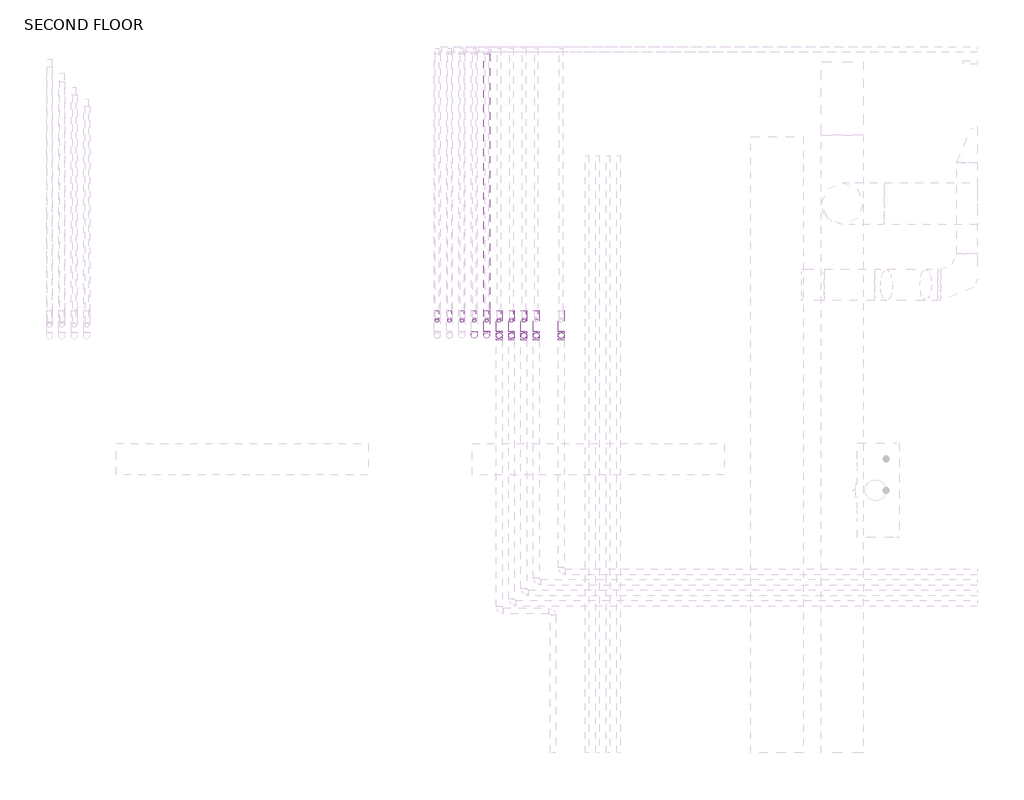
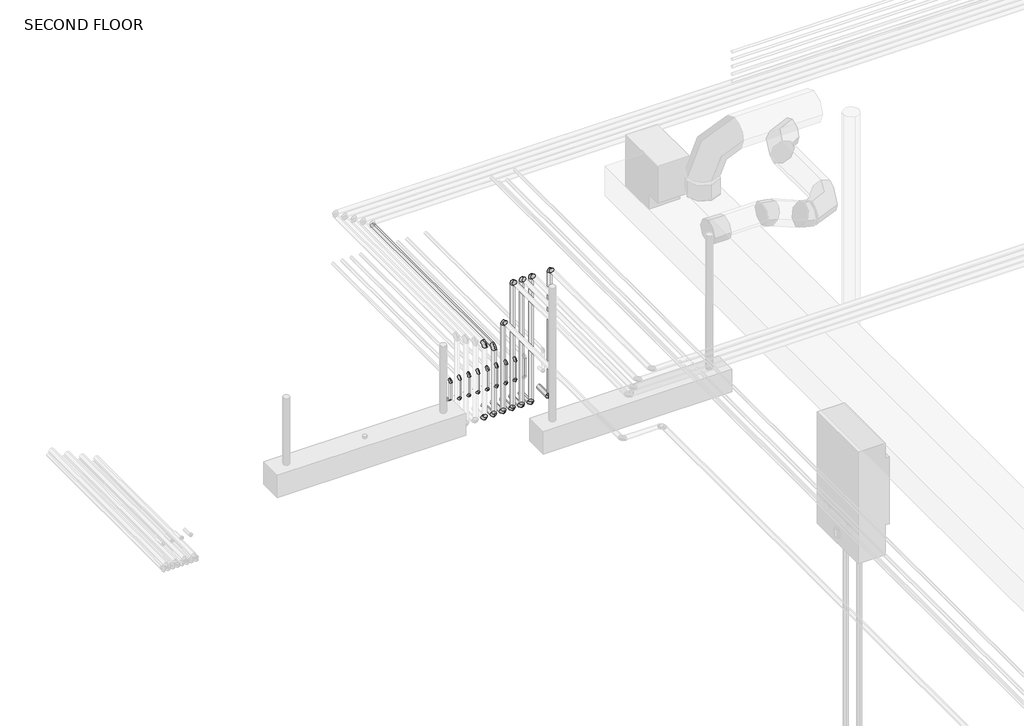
# One storey, part 8 of 12: 31 pipe segments, 30 pipe fittings.
"""IFC4 building model written with IfcOpenShell, lengths in millimetres."""

from ifc_helpers import new_model, si_unit, point, frame, frame_2d, origin, place, context, project, spatial, circle_curve, trimmed, segment, composite_curve, outline, extrude, transform, mapped, element, save
from components import elbow_generic_standard_c06ac706, elbow_generic_standard_a088f956

model = new_model("IFC4")

# Units and contexts
model_context = context("Model", 3, world=origin())
ifc_project = project(units=[si_unit("LENGTHUNIT", "METRE", prefix="MILLI")], contexts=[model_context])

# Site, building, storey
site = spatial("IfcSite", under=ifc_project)
building = spatial("IfcBuilding", under=site)
storey = spatial("IfcBuildingStorey", under=building, Name="SECOND FLOOR", Elevation=34544.0)

# Pipe fittings
placement = place(None, origin())
elbow_generic_standard_shape = elbow_generic_standard_c06ac706(model_context)
element("IfcPipeFitting", 1, ObjectType="Elbow - Generic : Standard", at=placement, inside=storey, context=model_context, shape_type="MappedRepresentation", body=[
    mapped(elbow_generic_standard_shape, transform((-7811.0790543, 6278.6701311, 37115.9125), x_axis=(0.0, -1.0, 0.0), y_axis=(0.0, 0.0, 1.0), z_axis=(-1.0, 0.0, 0.0))),
])
element("IfcPipeFitting", 2, ObjectType="Elbow - Generic : Standard", at=placement, inside=storey, context=model_context, shape_type="MappedRepresentation", body=[
    mapped(elbow_generic_standard_shape, transform((-7811.0790543, 6278.6701311, 37630.1), x_axis=(0.0, 0.0, 1.0), y_axis=(0.0, 1.0, 0.0), z_axis=(-1.0, 0.0, 0.0))),
])
element("IfcPipeFitting", 3, ObjectType="Elbow - Generic : Standard", at=placement, inside=storey, context=model_context, shape_type="MappedRepresentation", body=[
    mapped(elbow_generic_standard_shape, transform((-7751.0790543, 6278.6701311, 37115.9125), x_axis=(0.0, -1.0, 0.0), y_axis=(0.0, 0.0, 1.0), z_axis=(-1.0, 0.0, 0.0))),
])
element("IfcPipeFitting", 4, ObjectType="Elbow - Generic : Standard", at=placement, inside=storey, context=model_context, shape_type="MappedRepresentation", body=[
    mapped(elbow_generic_standard_shape, transform((-7751.0790543, 6278.6701311, 37592.0), x_axis=(0.0, 0.0, 1.0), y_axis=(0.0, 1.0, 0.0), z_axis=(-1.0, 0.0, 0.0))),
])
element("IfcPipeFitting", 5, ObjectType="Elbow - Generic : Standard", at=placement, inside=storey, context=model_context, shape_type="MappedRepresentation", body=[
    mapped(elbow_generic_standard_shape, transform((-7691.0790543, 6278.6701311, 37115.9125), x_axis=(0.0, -1.0, 0.0), y_axis=(0.0, 0.0, 1.0), z_axis=(-1.0, 0.0, 0.0))),
])
element("IfcPipeFitting", 6, ObjectType="Elbow - Generic : Standard", at=placement, inside=storey, context=model_context, shape_type="MappedRepresentation", body=[
    mapped(elbow_generic_standard_shape, transform((-7691.0790543, 6278.6701311, 37744.4), x_axis=(0.0, 0.0, 1.0), y_axis=(0.0, -1.0, 0.0), z_axis=(1.0, 0.0, 0.0))),
])
element("IfcPipeFitting", 7, ObjectType="Elbow - Generic : Standard", at=placement, inside=storey, context=model_context, shape_type="MappedRepresentation", body=[
    mapped(elbow_generic_standard_shape, transform((-7631.0790543, 6278.6701311, 37115.9125), x_axis=(0.0, -1.0, 0.0), y_axis=(0.0, 0.0, 1.0), z_axis=(-1.0, 0.0, 0.0))),
])
element("IfcPipeFitting", 8, ObjectType="Elbow - Generic : Standard", at=placement, inside=storey, context=model_context, shape_type="MappedRepresentation", body=[
    mapped(elbow_generic_standard_shape, transform((-7631.0790543, 6278.6701311, 37998.4), x_axis=(0.0, 0.0, 1.0), y_axis=(0.0, -1.0, 0.0), z_axis=(1.0, 0.0, 0.0))),
])
element("IfcPipeFitting", 9, ObjectType="Elbow - Generic : Standard", at=placement, inside=storey, context=model_context, shape_type="MappedRepresentation", body=[
    mapped(elbow_generic_standard_shape, transform((-7571.0790543, 6278.6701311, 37115.9125), x_axis=(0.0, -1.0, 0.0), y_axis=(0.0, 0.0, 1.0), z_axis=(-1.0, 0.0, 0.0))),
])
element("IfcPipeFitting", 10, ObjectType="Elbow - Generic : Standard", at=placement, inside=storey, context=model_context, shape_type="MappedRepresentation", body=[
    mapped(elbow_generic_standard_shape, transform((-7571.0790543, 6278.6701311, 37998.4), x_axis=(0.0, 0.0, 1.0), y_axis=(0.0, -1.0, 0.0), z_axis=(1.0, 0.0, 0.0))),
])
element("IfcPipeFitting", 11, ObjectType="Elbow - Generic : Standard", at=placement, inside=storey, context=model_context, shape_type="MappedRepresentation", body=[
    mapped(elbow_generic_standard_shape, transform((-7511.0790543, 6278.6701311, 37115.9125), x_axis=(0.0, -1.0, 0.0), y_axis=(0.0, 0.0, 1.0), z_axis=(-1.0, 0.0, 0.0))),
])
element("IfcPipeFitting", 12, ObjectType="Elbow - Generic : Standard", at=placement, inside=storey, context=model_context, shape_type="MappedRepresentation", body=[
    mapped(elbow_generic_standard_shape, transform((-7511.0790543, 6278.6701311, 37998.4), x_axis=(0.0, 0.0, 1.0), y_axis=(0.0, -1.0, 0.0), z_axis=(1.0, 0.0, 0.0))),
])
element("IfcPipeFitting", 13, ObjectType="Elbow - Generic : Standard", at=placement, inside=storey, context=model_context, shape_type="MappedRepresentation", body=[
    mapped(elbow_generic_standard_shape, transform((-7391.0790543, 6278.6701311, 37115.9125), x_axis=(0.0, -1.0, 0.0), y_axis=(0.0, 0.0, 1.0), z_axis=(-1.0, 0.0, 0.0))),
])
element("IfcPipeFitting", 14, ObjectType="Elbow - Generic : Standard", at=placement, inside=storey, context=model_context, shape_type="MappedRepresentation", body=[
    mapped(elbow_generic_standard_shape, transform((-7391.0790543, 6278.6701311, 37998.4), x_axis=(0.0, 0.0, 1.0), y_axis=(0.0, -1.0, 0.0), z_axis=(1.0, 0.0, 0.0))),
])
elbow_generic_standard_2_shape = elbow_generic_standard_a088f956(model_context)
element("IfcPipeFitting", 15, ObjectType="Elbow - Generic : Standard", at=placement, inside=storey, context=model_context, shape_type="MappedRepresentation", body=[
    mapped(elbow_generic_standard_2_shape, transform((-7991.0790543, 6350.1076209, 37245.9125), x_axis=(0.0, -1.0, 0.0), y_axis=(0.0, 0.0, 1.0), z_axis=(-1.0, 0.0, 0.0))),
])
element("IfcPipeFitting", 16, ObjectType="Elbow - Generic : Standard", at=placement, inside=storey, context=model_context, shape_type="MappedRepresentation", body=[
    mapped(elbow_generic_standard_2_shape, transform((-7991.0790543, 6350.1076209, 37398.3125), x_axis=(0.0, 0.0, 1.0), y_axis=(0.0, 1.0, 0.0), z_axis=(-1.0, 0.0, 0.0))),
])
element("IfcPipeFitting", 17, ObjectType="Elbow - Generic : Standard", at=placement, inside=storey, context=model_context, shape_type="MappedRepresentation", body=[
    mapped(elbow_generic_standard_2_shape, transform((-7931.0790543, 6350.1076209, 37245.9125), x_axis=(0.0, -1.0, 0.0), y_axis=(0.0, 0.0, 1.0), z_axis=(-1.0, 0.0, 0.0))),
])
element("IfcPipeFitting", 18, ObjectType="Elbow - Generic : Standard", at=placement, inside=storey, context=model_context, shape_type="MappedRepresentation", body=[
    mapped(elbow_generic_standard_2_shape, transform((-7931.0790543, 6350.1076209, 37398.3125), x_axis=(0.0, 0.0, 1.0), y_axis=(0.0, 1.0, 0.0), z_axis=(-1.0, 0.0, 0.0))),
])
element("IfcPipeFitting", 19, ObjectType="Elbow - Generic : Standard", at=placement, inside=storey, context=model_context, shape_type="MappedRepresentation", body=[
    mapped(elbow_generic_standard_2_shape, transform((-7871.0790543, 6350.1076209, 37245.9125), x_axis=(0.0, -1.0, 0.0), y_axis=(0.0, 0.0, 1.0), z_axis=(-1.0, 0.0, 0.0))),
])
element("IfcPipeFitting", 20, ObjectType="Elbow - Generic : Standard", at=placement, inside=storey, context=model_context, shape_type="MappedRepresentation", body=[
    mapped(elbow_generic_standard_2_shape, transform((-7871.0790543, 6350.1076209, 37398.3125), x_axis=(0.0, 0.0, 1.0), y_axis=(0.0, 1.0, 0.0), z_axis=(-1.0, 0.0, 0.0))),
])
element("IfcPipeFitting", 21, ObjectType="Elbow - Generic : Standard", at=placement, inside=storey, context=model_context, shape_type="MappedRepresentation", body=[
    mapped(elbow_generic_standard_2_shape, transform((-7811.0790543, 6350.1076209, 37245.9125), x_axis=(0.0, -1.0, 0.0), y_axis=(0.0, 0.0, 1.0), z_axis=(-1.0, 0.0, 0.0))),
])
element("IfcPipeFitting", 22, ObjectType="Elbow - Generic : Standard", at=placement, inside=storey, context=model_context, shape_type="MappedRepresentation", body=[
    mapped(elbow_generic_standard_2_shape, transform((-7811.0790543, 6350.1076209, 37398.3125), x_axis=(0.0, 0.0, 1.0), y_axis=(0.0, 1.0, 0.0), z_axis=(-1.0, 0.0, 0.0))),
])
element("IfcPipeFitting", 23, ObjectType="Elbow - Generic : Standard", at=placement, inside=storey, context=model_context, shape_type="MappedRepresentation", body=[
    mapped(elbow_generic_standard_2_shape, transform((-7751.0790543, 6350.1076209, 37245.9125), x_axis=(0.0, -1.0, 0.0), y_axis=(0.0, 0.0, 1.0), z_axis=(-1.0, 0.0, 0.0))),
])
element("IfcPipeFitting", 24, ObjectType="Elbow - Generic : Standard", at=placement, inside=storey, context=model_context, shape_type="MappedRepresentation", body=[
    mapped(elbow_generic_standard_2_shape, transform((-7751.0790543, 6350.1076209, 37398.3125), x_axis=(0.0, 0.0, 1.0), y_axis=(0.0, 1.0, 0.0), z_axis=(-1.0, 0.0, 0.0))),
])
element("IfcPipeFitting", 25, ObjectType="Elbow - Generic : Standard", at=placement, inside=storey, context=model_context, shape_type="MappedRepresentation", body=[
    mapped(elbow_generic_standard_2_shape, transform((-7691.0790543, 6350.1076209, 37245.9125), x_axis=(0.0, -1.0, 0.0), y_axis=(0.0, 0.0, 1.0), z_axis=(-1.0, 0.0, 0.0))),
])
element("IfcPipeFitting", 26, ObjectType="Elbow - Generic : Standard", at=placement, inside=storey, context=model_context, shape_type="MappedRepresentation", body=[
    mapped(elbow_generic_standard_2_shape, transform((-7691.0790543, 6350.1076209, 37398.3125), x_axis=(0.0, 0.0, 1.0), y_axis=(0.0, 1.0, 0.0), z_axis=(-1.0, 0.0, 0.0))),
])
element("IfcPipeFitting", 27, ObjectType="Elbow - Generic : Standard", at=placement, inside=storey, context=model_context, shape_type="MappedRepresentation", body=[
    mapped(elbow_generic_standard_2_shape, transform((-7631.0790543, 6350.1076209, 37245.9125), x_axis=(0.0, -1.0, 0.0), y_axis=(0.0, 0.0, 1.0), z_axis=(-1.0, 0.0, 0.0))),
])
element("IfcPipeFitting", 28, ObjectType="Elbow - Generic : Standard", at=placement, inside=storey, context=model_context, shape_type="MappedRepresentation", body=[
    mapped(elbow_generic_standard_2_shape, transform((-7631.0790543, 6350.1076209, 37398.3125), x_axis=(0.0, 0.0, 1.0), y_axis=(0.0, 1.0, 0.0), z_axis=(-1.0, 0.0, 0.0))),
])
element("IfcPipeFitting", 29, ObjectType="Elbow - Generic : Standard", at=placement, inside=storey, context=model_context, shape_type="MappedRepresentation", body=[
    mapped(elbow_generic_standard_2_shape, transform((-7571.0790543, 6350.1076209, 37245.9125), x_axis=(0.0, -1.0, 0.0), y_axis=(0.0, 0.0, 1.0), z_axis=(-1.0, 0.0, 0.0))),
])
element("IfcPipeFitting", 30, ObjectType="Elbow - Generic : Standard", at=placement, inside=storey, context=model_context, shape_type="MappedRepresentation", body=[
    mapped(elbow_generic_standard_2_shape, transform((-7571.0790543, 6350.1076209, 37398.3125), x_axis=(0.0, 0.0, 1.0), y_axis=(0.0, 1.0, 0.0), z_axis=(-1.0, 0.0, 0.0))),
])

# Pipe segments
element("IfcPipeSegment", 31, ObjectType="Copper Tubing", at=placement, inside=storey, context=model_context, shape_type="SweptSolid", body=[
    extrude(outline(composite_curve([segment(trimmed(circle_curve(frame_2d((37115.9125, -7751.0790543)), 14.2875), [point((37115.9125, -7765.3665543))], [point((37101.625, -7751.0790543))], False, "CARTESIAN"), True, "CONTINUOUS"), segment(trimmed(circle_curve(frame_2d((37115.9125, -7751.0790543)), 14.2875), [point((37101.625, -7751.0790543))], [point((37115.9125, -7736.7915543))], False, "CARTESIAN"), True, "CONTINUOUS"), segment(trimmed(circle_curve(frame_2d((37115.9125, -7751.0790543)), 14.2875), [point((37115.9125, -7736.7915543))], [point((37130.2, -7751.0790543))], False, "CARTESIAN"), True, "CONTINUOUS"), segment(trimmed(circle_curve(frame_2d((37115.9125, -7751.0790543)), 14.2875), [point((37130.2, -7751.0790543))], [point((37115.9125, -7765.3665543))], False, "CARTESIAN"), True, "CONTINUOUS")], self_intersect=False)), frame((0.0, 6299.3076311, 0.0), z_axis=(0.0, 1.0, 0.0), x_axis=(0.0, 0.0, 1.0)), (0.0, 0.0, 1.0), 101.5999898),
])
element("IfcPipeSegment", 32, ObjectType="Copper Tubing", at=placement, inside=storey, context=model_context, shape_type="SweptSolid", body=[
    extrude(outline(composite_curve([segment(trimmed(circle_curve(frame_2d((-7751.0790543, 6278.6701311)), 14.2875), [point((-7765.3665543, 6278.6701311))], [point((-7751.0790543, 6292.9576311))], False, "CARTESIAN"), True, "CONTINUOUS"), segment(trimmed(circle_curve(frame_2d((-7751.0790543, 6278.6701311)), 14.2875), [point((-7751.0790543, 6292.9576311))], [point((-7736.7915543, 6278.6701311))], False, "CARTESIAN"), True, "CONTINUOUS"), segment(trimmed(circle_curve(frame_2d((-7751.0790543, 6278.6701311)), 14.2875), [point((-7736.7915543, 6278.6701311))], [point((-7751.0790543, 6264.3826311))], False, "CARTESIAN"), True, "CONTINUOUS"), segment(trimmed(circle_curve(frame_2d((-7751.0790543, 6278.6701311)), 14.2875), [point((-7751.0790543, 6264.3826311))], [point((-7765.3665543, 6278.6701311))], False, "CARTESIAN"), True, "CONTINUOUS")], self_intersect=False)), frame((0.0, 0.0, 37136.55), z_axis=(0.0, 0.0, 1.0), x_axis=(1.0, 0.0, 0.0)), (0.0, 0.0, 1.0), 434.8125),
])
element("IfcPipeSegment", 33, ObjectType="Copper Tubing", at=placement, inside=storey, context=model_context, shape_type="SweptSolid", body=[
    extrude(outline(composite_curve([segment(trimmed(circle_curve(frame_2d((37592.0, -7751.0790543)), 14.2875), [point((37592.0, -7736.7915543))], [point((37606.2875, -7751.0790543))], False, "CARTESIAN"), True, "CONTINUOUS"), segment(trimmed(circle_curve(frame_2d((37592.0, -7751.0790543)), 14.2875), [point((37606.2875, -7751.0790543))], [point((37592.0, -7765.3665543))], False, "CARTESIAN"), True, "CONTINUOUS"), segment(trimmed(circle_curve(frame_2d((37592.0, -7751.0790543)), 14.2875), [point((37592.0, -7765.3665543))], [point((37577.7125, -7751.0790543))], False, "CARTESIAN"), True, "CONTINUOUS"), segment(trimmed(circle_curve(frame_2d((37592.0, -7751.0790543)), 14.2875), [point((37577.7125, -7751.0790543))], [point((37592.0, -7736.7915543))], False, "CARTESIAN"), True, "CONTINUOUS")], self_intersect=False)), frame((0.0, 6299.3076311, 0.0), z_axis=(0.0, 1.0, 0.0), x_axis=(0.0, 0.0, 1.0)), (0.0, 0.0, 1.0), 1343.9118694),
])
element("IfcPipeSegment", 34, ObjectType="Copper Tubing", at=placement, inside=storey, context=model_context, shape_type="SweptSolid", body=[
    extrude(outline(composite_curve([segment(trimmed(circle_curve(frame_2d((37115.9125, -7691.0790543)), 14.2875), [point((37115.9125, -7705.3665543))], [point((37101.625, -7691.0790543))], False, "CARTESIAN"), True, "CONTINUOUS"), segment(trimmed(circle_curve(frame_2d((37115.9125, -7691.0790543)), 14.2875), [point((37101.625, -7691.0790543))], [point((37115.9125, -7676.7915543))], False, "CARTESIAN"), True, "CONTINUOUS"), segment(trimmed(circle_curve(frame_2d((37115.9125, -7691.0790543)), 14.2875), [point((37115.9125, -7676.7915543))], [point((37130.2, -7691.0790543))], False, "CARTESIAN"), True, "CONTINUOUS"), segment(trimmed(circle_curve(frame_2d((37115.9125, -7691.0790543)), 14.2875), [point((37130.2, -7691.0790543))], [point((37115.9125, -7705.3665543))], False, "CARTESIAN"), True, "CONTINUOUS")], self_intersect=False)), frame((0.0, 6299.3076311, 0.0), z_axis=(0.0, 1.0, 0.0), x_axis=(0.0, 0.0, 1.0)), (0.0, 0.0, 1.0), 101.5999898),
])
element("IfcPipeSegment", 35, ObjectType="Copper Tubing", at=placement, inside=storey, context=model_context, shape_type="SweptSolid", body=[
    extrude(outline(composite_curve([segment(trimmed(circle_curve(frame_2d((-7691.0790543, 6278.6701311)), 14.2875), [point((-7705.3665543, 6278.6701311))], [point((-7691.0790543, 6292.9576311))], False, "CARTESIAN"), True, "CONTINUOUS"), segment(trimmed(circle_curve(frame_2d((-7691.0790543, 6278.6701311)), 14.2875), [point((-7691.0790543, 6292.9576311))], [point((-7676.7915543, 6278.6701311))], False, "CARTESIAN"), True, "CONTINUOUS"), segment(trimmed(circle_curve(frame_2d((-7691.0790543, 6278.6701311)), 14.2875), [point((-7676.7915543, 6278.6701311))], [point((-7691.0790543, 6264.3826311))], False, "CARTESIAN"), True, "CONTINUOUS"), segment(trimmed(circle_curve(frame_2d((-7691.0790543, 6278.6701311)), 14.2875), [point((-7691.0790543, 6264.3826311))], [point((-7705.3665543, 6278.6701311))], False, "CARTESIAN"), True, "CONTINUOUS")], self_intersect=False)), frame((0.0, 0.0, 37136.55), z_axis=(0.0, 0.0, 1.0), x_axis=(1.0, 0.0, 0.0)), (0.0, 0.0, 1.0), 587.2125),
])
element("IfcPipeSegment", 36, ObjectType="Copper Tubing", at=placement, inside=storey, context=model_context, shape_type="SweptSolid", body=[
    extrude(outline(composite_curve([segment(trimmed(circle_curve(frame_2d((37115.9125, -7631.0790543)), 14.2875), [point((37115.9125, -7645.3665543))], [point((37101.625, -7631.0790543))], False, "CARTESIAN"), True, "CONTINUOUS"), segment(trimmed(circle_curve(frame_2d((37115.9125, -7631.0790543)), 14.2875), [point((37101.625, -7631.0790543))], [point((37115.9125, -7616.7915543))], False, "CARTESIAN"), True, "CONTINUOUS"), segment(trimmed(circle_curve(frame_2d((37115.9125, -7631.0790543)), 14.2875), [point((37115.9125, -7616.7915543))], [point((37130.2, -7631.0790543))], False, "CARTESIAN"), True, "CONTINUOUS"), segment(trimmed(circle_curve(frame_2d((37115.9125, -7631.0790543)), 14.2875), [point((37130.2, -7631.0790543))], [point((37115.9125, -7645.3665543))], False, "CARTESIAN"), True, "CONTINUOUS")], self_intersect=False)), frame((0.0, 6299.3076311, 0.0), z_axis=(0.0, 1.0, 0.0), x_axis=(0.0, 0.0, 1.0)), (0.0, 0.0, 1.0), 101.5999898),
])
element("IfcPipeSegment", 37, ObjectType="Copper Tubing", at=placement, inside=storey, context=model_context, shape_type="SweptSolid", body=[
    extrude(outline(composite_curve([segment(trimmed(circle_curve(frame_2d((-7631.0790543, 6278.6701311)), 14.2875), [point((-7645.3665543, 6278.6701311))], [point((-7631.0790543, 6292.9576311))], False, "CARTESIAN"), True, "CONTINUOUS"), segment(trimmed(circle_curve(frame_2d((-7631.0790543, 6278.6701311)), 14.2875), [point((-7631.0790543, 6292.9576311))], [point((-7616.7915543, 6278.6701311))], False, "CARTESIAN"), True, "CONTINUOUS"), segment(trimmed(circle_curve(frame_2d((-7631.0790543, 6278.6701311)), 14.2875), [point((-7616.7915543, 6278.6701311))], [point((-7631.0790543, 6264.3826311))], False, "CARTESIAN"), True, "CONTINUOUS"), segment(trimmed(circle_curve(frame_2d((-7631.0790543, 6278.6701311)), 14.2875), [point((-7631.0790543, 6264.3826311))], [point((-7645.3665543, 6278.6701311))], False, "CARTESIAN"), True, "CONTINUOUS")], self_intersect=False)), frame((0.0, 0.0, 37136.55), z_axis=(0.0, 0.0, 1.0), x_axis=(1.0, 0.0, 0.0)), (0.0, 0.0, 1.0), 841.2125),
])
element("IfcPipeSegment", 38, ObjectType="Copper Tubing", at=placement, inside=storey, context=model_context, shape_type="SweptSolid", body=[
    extrude(outline(composite_curve([segment(trimmed(circle_curve(frame_2d((37115.9125, -7571.0790543)), 14.2875), [point((37115.9125, -7585.3665543))], [point((37101.625, -7571.0790543))], False, "CARTESIAN"), True, "CONTINUOUS"), segment(trimmed(circle_curve(frame_2d((37115.9125, -7571.0790543)), 14.2875), [point((37101.625, -7571.0790543))], [point((37115.9125, -7556.7915543))], False, "CARTESIAN"), True, "CONTINUOUS"), segment(trimmed(circle_curve(frame_2d((37115.9125, -7571.0790543)), 14.2875), [point((37115.9125, -7556.7915543))], [point((37130.2, -7571.0790543))], False, "CARTESIAN"), True, "CONTINUOUS"), segment(trimmed(circle_curve(frame_2d((37115.9125, -7571.0790543)), 14.2875), [point((37130.2, -7571.0790543))], [point((37115.9125, -7585.3665543))], False, "CARTESIAN"), True, "CONTINUOUS")], self_intersect=False)), frame((0.0, 6299.3076311, 0.0), z_axis=(0.0, 1.0, 0.0), x_axis=(0.0, 0.0, 1.0)), (0.0, 0.0, 1.0), 101.5999898),
])
element("IfcPipeSegment", 39, ObjectType="Copper Tubing", at=placement, inside=storey, context=model_context, shape_type="SweptSolid", body=[
    extrude(outline(composite_curve([segment(trimmed(circle_curve(frame_2d((-7571.0790543, 6278.6701311)), 14.2875), [point((-7585.3665543, 6278.6701311))], [point((-7571.0790543, 6292.9576311))], False, "CARTESIAN"), True, "CONTINUOUS"), segment(trimmed(circle_curve(frame_2d((-7571.0790543, 6278.6701311)), 14.2875), [point((-7571.0790543, 6292.9576311))], [point((-7556.7915543, 6278.6701311))], False, "CARTESIAN"), True, "CONTINUOUS"), segment(trimmed(circle_curve(frame_2d((-7571.0790543, 6278.6701311)), 14.2875), [point((-7556.7915543, 6278.6701311))], [point((-7571.0790543, 6264.3826311))], False, "CARTESIAN"), True, "CONTINUOUS"), segment(trimmed(circle_curve(frame_2d((-7571.0790543, 6278.6701311)), 14.2875), [point((-7571.0790543, 6264.3826311))], [point((-7585.3665543, 6278.6701311))], False, "CARTESIAN"), True, "CONTINUOUS")], self_intersect=False)), frame((0.0, 0.0, 37136.55), z_axis=(0.0, 0.0, 1.0), x_axis=(1.0, 0.0, 0.0)), (0.0, 0.0, 1.0), 841.2125),
])
element("IfcPipeSegment", 40, ObjectType="Copper Tubing", at=placement, inside=storey, context=model_context, shape_type="SweptSolid", body=[
    extrude(outline(composite_curve([segment(trimmed(circle_curve(frame_2d((37115.9125, -7511.0790543)), 14.2875), [point((37115.9125, -7525.3665543))], [point((37101.625, -7511.0790543))], False, "CARTESIAN"), True, "CONTINUOUS"), segment(trimmed(circle_curve(frame_2d((37115.9125, -7511.0790543)), 14.2875), [point((37101.625, -7511.0790543))], [point((37115.9125, -7496.7915543))], False, "CARTESIAN"), True, "CONTINUOUS"), segment(trimmed(circle_curve(frame_2d((37115.9125, -7511.0790543)), 14.2875), [point((37115.9125, -7496.7915543))], [point((37130.2, -7511.0790543))], False, "CARTESIAN"), True, "CONTINUOUS"), segment(trimmed(circle_curve(frame_2d((37115.9125, -7511.0790543)), 14.2875), [point((37130.2, -7511.0790543))], [point((37115.9125, -7525.3665543))], False, "CARTESIAN"), True, "CONTINUOUS")], self_intersect=False)), frame((0.0, 6299.3076311, 0.0), z_axis=(0.0, 1.0, 0.0), x_axis=(0.0, 0.0, 1.0)), (0.0, 0.0, 1.0), 101.5999898),
])
element("IfcPipeSegment", 41, ObjectType="Copper Tubing", at=placement, inside=storey, context=model_context, shape_type="SweptSolid", body=[
    extrude(outline(composite_curve([segment(trimmed(circle_curve(frame_2d((-7511.0790543, 6278.6701311)), 14.2875), [point((-7525.3665543, 6278.6701311))], [point((-7511.0790543, 6292.9576311))], False, "CARTESIAN"), True, "CONTINUOUS"), segment(trimmed(circle_curve(frame_2d((-7511.0790543, 6278.6701311)), 14.2875), [point((-7511.0790543, 6292.9576311))], [point((-7496.7915543, 6278.6701311))], False, "CARTESIAN"), True, "CONTINUOUS"), segment(trimmed(circle_curve(frame_2d((-7511.0790543, 6278.6701311)), 14.2875), [point((-7496.7915543, 6278.6701311))], [point((-7511.0790543, 6264.3826311))], False, "CARTESIAN"), True, "CONTINUOUS"), segment(trimmed(circle_curve(frame_2d((-7511.0790543, 6278.6701311)), 14.2875), [point((-7511.0790543, 6264.3826311))], [point((-7525.3665543, 6278.6701311))], False, "CARTESIAN"), True, "CONTINUOUS")], self_intersect=False)), frame((0.0, 0.0, 37136.55), z_axis=(0.0, 0.0, 1.0), x_axis=(1.0, 0.0, 0.0)), (0.0, 0.0, 1.0), 841.2125),
])
element("IfcPipeSegment", 42, ObjectType="Copper Tubing", at=placement, inside=storey, context=model_context, shape_type="SweptSolid", body=[
    extrude(outline(composite_curve([segment(trimmed(circle_curve(frame_2d((37115.9125, -7391.0790543)), 14.2875), [point((37115.9125, -7405.3665543))], [point((37101.625, -7391.0790543))], False, "CARTESIAN"), True, "CONTINUOUS"), segment(trimmed(circle_curve(frame_2d((37115.9125, -7391.0790543)), 14.2875), [point((37101.625, -7391.0790543))], [point((37115.9125, -7376.7915543))], False, "CARTESIAN"), True, "CONTINUOUS"), segment(trimmed(circle_curve(frame_2d((37115.9125, -7391.0790543)), 14.2875), [point((37115.9125, -7376.7915543))], [point((37130.2, -7391.0790543))], False, "CARTESIAN"), True, "CONTINUOUS"), segment(trimmed(circle_curve(frame_2d((37115.9125, -7391.0790543)), 14.2875), [point((37130.2, -7391.0790543))], [point((37115.9125, -7405.3665543))], False, "CARTESIAN"), True, "CONTINUOUS")], self_intersect=False)), frame((0.0, 6299.3076311, 0.0), z_axis=(0.0, 1.0, 0.0), x_axis=(0.0, 0.0, 1.0)), (0.0, 0.0, 1.0), 101.5999898),
])
element("IfcPipeSegment", 43, ObjectType="Copper Tubing", at=placement, inside=storey, context=model_context, shape_type="SweptSolid", body=[
    extrude(outline(composite_curve([segment(trimmed(circle_curve(frame_2d((-7391.0790543, 6278.6701311)), 14.2875), [point((-7405.3665543, 6278.6701311))], [point((-7391.0790543, 6292.9576311))], False, "CARTESIAN"), True, "CONTINUOUS"), segment(trimmed(circle_curve(frame_2d((-7391.0790543, 6278.6701311)), 14.2875), [point((-7391.0790543, 6292.9576311))], [point((-7376.7915543, 6278.6701311))], False, "CARTESIAN"), True, "CONTINUOUS"), segment(trimmed(circle_curve(frame_2d((-7391.0790543, 6278.6701311)), 14.2875), [point((-7376.7915543, 6278.6701311))], [point((-7391.0790543, 6264.3826311))], False, "CARTESIAN"), True, "CONTINUOUS"), segment(trimmed(circle_curve(frame_2d((-7391.0790543, 6278.6701311)), 14.2875), [point((-7391.0790543, 6264.3826311))], [point((-7405.3665543, 6278.6701311))], False, "CARTESIAN"), True, "CONTINUOUS")], self_intersect=False)), frame((0.0, 0.0, 37136.55), z_axis=(0.0, 0.0, 1.0), x_axis=(1.0, 0.0, 0.0)), (0.0, 0.0, 1.0), 841.2125),
])
element("IfcPipeSegment", 44, ObjectType="Copper Tubing", at=placement, inside=storey, context=model_context, shape_type="SweptSolid", body=[
    extrude(outline(composite_curve([segment(trimmed(circle_curve(frame_2d((37245.9125, -7991.0790543)), 7.9375), [point((37245.9125, -7999.0165543))], [point((37237.975, -7991.0790543))], False, "CARTESIAN"), True, "CONTINUOUS"), segment(trimmed(circle_curve(frame_2d((37245.9125, -7991.0790543)), 7.9375), [point((37237.975, -7991.0790543))], [point((37245.9125, -7983.1415543))], False, "CARTESIAN"), True, "CONTINUOUS"), segment(trimmed(circle_curve(frame_2d((37245.9125, -7991.0790543)), 7.9375), [point((37245.9125, -7983.1415543))], [point((37253.85, -7991.0790543))], False, "CARTESIAN"), True, "CONTINUOUS"), segment(trimmed(circle_curve(frame_2d((37245.9125, -7991.0790543)), 7.9375), [point((37253.85, -7991.0790543))], [point((37245.9125, -7999.0165543))], False, "CARTESIAN"), True, "CONTINUOUS")], self_intersect=False)), frame((0.0, 6364.3951209, 0.0), z_axis=(0.0, 1.0, 0.0), x_axis=(0.0, 0.0, 1.0)), (0.0, 0.0, 1.0), 36.5125),
])
element("IfcPipeSegment", 45, ObjectType="Copper Tubing", at=placement, inside=storey, context=model_context, shape_type="SweptSolid", body=[
    extrude(outline(composite_curve([segment(trimmed(circle_curve(frame_2d((-7991.0790543, 6350.1076209)), 7.9375), [point((-7999.0165543, 6350.1076209))], [point((-7991.0790543, 6358.0451209))], False, "CARTESIAN"), True, "CONTINUOUS"), segment(trimmed(circle_curve(frame_2d((-7991.0790543, 6350.1076209)), 7.9375), [point((-7991.0790543, 6358.0451209))], [point((-7983.1415543, 6350.1076209))], False, "CARTESIAN"), True, "CONTINUOUS"), segment(trimmed(circle_curve(frame_2d((-7991.0790543, 6350.1076209)), 7.9375), [point((-7983.1415543, 6350.1076209))], [point((-7991.0790543, 6342.1701209))], False, "CARTESIAN"), True, "CONTINUOUS"), segment(trimmed(circle_curve(frame_2d((-7991.0790543, 6350.1076209)), 7.9375), [point((-7991.0790543, 6342.1701209))], [point((-7999.0165543, 6350.1076209))], False, "CARTESIAN"), True, "CONTINUOUS")], self_intersect=False)), frame((0.0, 0.0, 37260.2), z_axis=(0.0, 0.0, 1.0), x_axis=(1.0, 0.0, 0.0)), (0.0, 0.0, 1.0), 123.825),
])
element("IfcPipeSegment", 46, ObjectType="Copper Tubing", at=placement, inside=storey, context=model_context, shape_type="SweptSolid", body=[
    extrude(outline(composite_curve([segment(trimmed(circle_curve(frame_2d((37245.9125, -7931.0790543)), 7.9375), [point((37245.9125, -7939.0165543))], [point((37237.975, -7931.0790543))], False, "CARTESIAN"), True, "CONTINUOUS"), segment(trimmed(circle_curve(frame_2d((37245.9125, -7931.0790543)), 7.9375), [point((37237.975, -7931.0790543))], [point((37245.9125, -7923.1415543))], False, "CARTESIAN"), True, "CONTINUOUS"), segment(trimmed(circle_curve(frame_2d((37245.9125, -7931.0790543)), 7.9375), [point((37245.9125, -7923.1415543))], [point((37253.85, -7931.0790543))], False, "CARTESIAN"), True, "CONTINUOUS"), segment(trimmed(circle_curve(frame_2d((37245.9125, -7931.0790543)), 7.9375), [point((37253.85, -7931.0790543))], [point((37245.9125, -7939.0165543))], False, "CARTESIAN"), True, "CONTINUOUS")], self_intersect=False)), frame((0.0, 6364.3951209, 0.0), z_axis=(0.0, 1.0, 0.0), x_axis=(0.0, 0.0, 1.0)), (0.0, 0.0, 1.0), 36.5125),
])
element("IfcPipeSegment", 47, ObjectType="Copper Tubing", at=placement, inside=storey, context=model_context, shape_type="SweptSolid", body=[
    extrude(outline(composite_curve([segment(trimmed(circle_curve(frame_2d((-7931.0790543, 6350.1076209)), 7.9375), [point((-7939.0165543, 6350.1076209))], [point((-7931.0790543, 6358.0451209))], False, "CARTESIAN"), True, "CONTINUOUS"), segment(trimmed(circle_curve(frame_2d((-7931.0790543, 6350.1076209)), 7.9375), [point((-7931.0790543, 6358.0451209))], [point((-7923.1415543, 6350.1076209))], False, "CARTESIAN"), True, "CONTINUOUS"), segment(trimmed(circle_curve(frame_2d((-7931.0790543, 6350.1076209)), 7.9375), [point((-7923.1415543, 6350.1076209))], [point((-7931.0790543, 6342.1701209))], False, "CARTESIAN"), True, "CONTINUOUS"), segment(trimmed(circle_curve(frame_2d((-7931.0790543, 6350.1076209)), 7.9375), [point((-7931.0790543, 6342.1701209))], [point((-7939.0165543, 6350.1076209))], False, "CARTESIAN"), True, "CONTINUOUS")], self_intersect=False)), frame((0.0, 0.0, 37260.2), z_axis=(0.0, 0.0, 1.0), x_axis=(1.0, 0.0, 0.0)), (0.0, 0.0, 1.0), 123.825),
])
element("IfcPipeSegment", 48, ObjectType="Copper Tubing", at=placement, inside=storey, context=model_context, shape_type="SweptSolid", body=[
    extrude(outline(composite_curve([segment(trimmed(circle_curve(frame_2d((37245.9125, -7871.0790543)), 7.9375), [point((37245.9125, -7879.0165543))], [point((37237.975, -7871.0790543))], False, "CARTESIAN"), True, "CONTINUOUS"), segment(trimmed(circle_curve(frame_2d((37245.9125, -7871.0790543)), 7.9375), [point((37237.975, -7871.0790543))], [point((37245.9125, -7863.1415543))], False, "CARTESIAN"), True, "CONTINUOUS"), segment(trimmed(circle_curve(frame_2d((37245.9125, -7871.0790543)), 7.9375), [point((37245.9125, -7863.1415543))], [point((37253.85, -7871.0790543))], False, "CARTESIAN"), True, "CONTINUOUS"), segment(trimmed(circle_curve(frame_2d((37245.9125, -7871.0790543)), 7.9375), [point((37253.85, -7871.0790543))], [point((37245.9125, -7879.0165543))], False, "CARTESIAN"), True, "CONTINUOUS")], self_intersect=False)), frame((0.0, 6364.3951209, 0.0), z_axis=(0.0, 1.0, 0.0), x_axis=(0.0, 0.0, 1.0)), (0.0, 0.0, 1.0), 36.5125),
])
element("IfcPipeSegment", 49, ObjectType="Copper Tubing", at=placement, inside=storey, context=model_context, shape_type="SweptSolid", body=[
    extrude(outline(composite_curve([segment(trimmed(circle_curve(frame_2d((-7871.0790543, 6350.1076209)), 7.9375), [point((-7879.0165543, 6350.1076209))], [point((-7871.0790543, 6358.0451209))], False, "CARTESIAN"), True, "CONTINUOUS"), segment(trimmed(circle_curve(frame_2d((-7871.0790543, 6350.1076209)), 7.9375), [point((-7871.0790543, 6358.0451209))], [point((-7863.1415543, 6350.1076209))], False, "CARTESIAN"), True, "CONTINUOUS"), segment(trimmed(circle_curve(frame_2d((-7871.0790543, 6350.1076209)), 7.9375), [point((-7863.1415543, 6350.1076209))], [point((-7871.0790543, 6342.1701209))], False, "CARTESIAN"), True, "CONTINUOUS"), segment(trimmed(circle_curve(frame_2d((-7871.0790543, 6350.1076209)), 7.9375), [point((-7871.0790543, 6342.1701209))], [point((-7879.0165543, 6350.1076209))], False, "CARTESIAN"), True, "CONTINUOUS")], self_intersect=False)), frame((0.0, 0.0, 37260.2), z_axis=(0.0, 0.0, 1.0), x_axis=(1.0, 0.0, 0.0)), (0.0, 0.0, 1.0), 123.825),
])
element("IfcPipeSegment", 50, ObjectType="Copper Tubing", at=placement, inside=storey, context=model_context, shape_type="SweptSolid", body=[
    extrude(outline(composite_curve([segment(trimmed(circle_curve(frame_2d((37245.9125, -7811.0790543)), 7.9375), [point((37245.9125, -7819.0165543))], [point((37237.975, -7811.0790543))], False, "CARTESIAN"), True, "CONTINUOUS"), segment(trimmed(circle_curve(frame_2d((37245.9125, -7811.0790543)), 7.9375), [point((37237.975, -7811.0790543))], [point((37245.9125, -7803.1415543))], False, "CARTESIAN"), True, "CONTINUOUS"), segment(trimmed(circle_curve(frame_2d((37245.9125, -7811.0790543)), 7.9375), [point((37245.9125, -7803.1415543))], [point((37253.85, -7811.0790543))], False, "CARTESIAN"), True, "CONTINUOUS"), segment(trimmed(circle_curve(frame_2d((37245.9125, -7811.0790543)), 7.9375), [point((37253.85, -7811.0790543))], [point((37245.9125, -7819.0165543))], False, "CARTESIAN"), True, "CONTINUOUS")], self_intersect=False)), frame((0.0, 6364.3951209, 0.0), z_axis=(0.0, 1.0, 0.0), x_axis=(0.0, 0.0, 1.0)), (0.0, 0.0, 1.0), 36.5125),
])
element("IfcPipeSegment", 51, ObjectType="Copper Tubing", at=placement, inside=storey, context=model_context, shape_type="SweptSolid", body=[
    extrude(outline(composite_curve([segment(trimmed(circle_curve(frame_2d((-7811.0790543, 6350.1076209)), 7.9375), [point((-7819.0165543, 6350.1076209))], [point((-7811.0790543, 6358.0451209))], False, "CARTESIAN"), True, "CONTINUOUS"), segment(trimmed(circle_curve(frame_2d((-7811.0790543, 6350.1076209)), 7.9375), [point((-7811.0790543, 6358.0451209))], [point((-7803.1415543, 6350.1076209))], False, "CARTESIAN"), True, "CONTINUOUS"), segment(trimmed(circle_curve(frame_2d((-7811.0790543, 6350.1076209)), 7.9375), [point((-7803.1415543, 6350.1076209))], [point((-7811.0790543, 6342.1701209))], False, "CARTESIAN"), True, "CONTINUOUS"), segment(trimmed(circle_curve(frame_2d((-7811.0790543, 6350.1076209)), 7.9375), [point((-7811.0790543, 6342.1701209))], [point((-7819.0165543, 6350.1076209))], False, "CARTESIAN"), True, "CONTINUOUS")], self_intersect=False)), frame((0.0, 0.0, 37260.2), z_axis=(0.0, 0.0, 1.0), x_axis=(1.0, 0.0, 0.0)), (0.0, 0.0, 1.0), 123.825),
])
element("IfcPipeSegment", 52, ObjectType="Copper Tubing", at=placement, inside=storey, context=model_context, shape_type="SweptSolid", body=[
    extrude(outline(composite_curve([segment(trimmed(circle_curve(frame_2d((37245.9125, -7751.0790543)), 7.9375), [point((37245.9125, -7759.0165543))], [point((37237.975, -7751.0790543))], False, "CARTESIAN"), True, "CONTINUOUS"), segment(trimmed(circle_curve(frame_2d((37245.9125, -7751.0790543)), 7.9375), [point((37237.975, -7751.0790543))], [point((37245.9125, -7743.1415543))], False, "CARTESIAN"), True, "CONTINUOUS"), segment(trimmed(circle_curve(frame_2d((37245.9125, -7751.0790543)), 7.9375), [point((37245.9125, -7743.1415543))], [point((37253.85, -7751.0790543))], False, "CARTESIAN"), True, "CONTINUOUS"), segment(trimmed(circle_curve(frame_2d((37245.9125, -7751.0790543)), 7.9375), [point((37253.85, -7751.0790543))], [point((37245.9125, -7759.0165543))], False, "CARTESIAN"), True, "CONTINUOUS")], self_intersect=False)), frame((0.0, 6364.3951209, 0.0), z_axis=(0.0, 1.0, 0.0), x_axis=(0.0, 0.0, 1.0)), (0.0, 0.0, 1.0), 36.5125),
])
element("IfcPipeSegment", 53, ObjectType="Copper Tubing", at=placement, inside=storey, context=model_context, shape_type="SweptSolid", body=[
    extrude(outline(composite_curve([segment(trimmed(circle_curve(frame_2d((-7751.0790543, 6350.1076209)), 7.9375), [point((-7759.0165543, 6350.1076209))], [point((-7751.0790543, 6358.0451209))], False, "CARTESIAN"), True, "CONTINUOUS"), segment(trimmed(circle_curve(frame_2d((-7751.0790543, 6350.1076209)), 7.9375), [point((-7751.0790543, 6358.0451209))], [point((-7743.1415543, 6350.1076209))], False, "CARTESIAN"), True, "CONTINUOUS"), segment(trimmed(circle_curve(frame_2d((-7751.0790543, 6350.1076209)), 7.9375), [point((-7743.1415543, 6350.1076209))], [point((-7751.0790543, 6342.1701209))], False, "CARTESIAN"), True, "CONTINUOUS"), segment(trimmed(circle_curve(frame_2d((-7751.0790543, 6350.1076209)), 7.9375), [point((-7751.0790543, 6342.1701209))], [point((-7759.0165543, 6350.1076209))], False, "CARTESIAN"), True, "CONTINUOUS")], self_intersect=False)), frame((0.0, 0.0, 37260.2), z_axis=(0.0, 0.0, 1.0), x_axis=(1.0, 0.0, 0.0)), (0.0, 0.0, 1.0), 123.825),
])
element("IfcPipeSegment", 54, ObjectType="Copper Tubing", at=placement, inside=storey, context=model_context, shape_type="SweptSolid", body=[
    extrude(outline(composite_curve([segment(trimmed(circle_curve(frame_2d((37245.9125, -7691.0790543)), 7.9375), [point((37245.9125, -7699.0165543))], [point((37237.975, -7691.0790543))], False, "CARTESIAN"), True, "CONTINUOUS"), segment(trimmed(circle_curve(frame_2d((37245.9125, -7691.0790543)), 7.9375), [point((37237.975, -7691.0790543))], [point((37245.9125, -7683.1415543))], False, "CARTESIAN"), True, "CONTINUOUS"), segment(trimmed(circle_curve(frame_2d((37245.9125, -7691.0790543)), 7.9375), [point((37245.9125, -7683.1415543))], [point((37253.85, -7691.0790543))], False, "CARTESIAN"), True, "CONTINUOUS"), segment(trimmed(circle_curve(frame_2d((37245.9125, -7691.0790543)), 7.9375), [point((37253.85, -7691.0790543))], [point((37245.9125, -7699.0165543))], False, "CARTESIAN"), True, "CONTINUOUS")], self_intersect=False)), frame((0.0, 6364.3951209, 0.0), z_axis=(0.0, 1.0, 0.0), x_axis=(0.0, 0.0, 1.0)), (0.0, 0.0, 1.0), 36.5125),
])
element("IfcPipeSegment", 55, ObjectType="Copper Tubing", at=placement, inside=storey, context=model_context, shape_type="SweptSolid", body=[
    extrude(outline(composite_curve([segment(trimmed(circle_curve(frame_2d((-7691.0790543, 6350.1076209)), 7.9375), [point((-7699.0165543, 6350.1076209))], [point((-7691.0790543, 6358.0451209))], False, "CARTESIAN"), True, "CONTINUOUS"), segment(trimmed(circle_curve(frame_2d((-7691.0790543, 6350.1076209)), 7.9375), [point((-7691.0790543, 6358.0451209))], [point((-7683.1415543, 6350.1076209))], False, "CARTESIAN"), True, "CONTINUOUS"), segment(trimmed(circle_curve(frame_2d((-7691.0790543, 6350.1076209)), 7.9375), [point((-7683.1415543, 6350.1076209))], [point((-7691.0790543, 6342.1701209))], False, "CARTESIAN"), True, "CONTINUOUS"), segment(trimmed(circle_curve(frame_2d((-7691.0790543, 6350.1076209)), 7.9375), [point((-7691.0790543, 6342.1701209))], [point((-7699.0165543, 6350.1076209))], False, "CARTESIAN"), True, "CONTINUOUS")], self_intersect=False)), frame((0.0, 0.0, 37260.2), z_axis=(0.0, 0.0, 1.0), x_axis=(1.0, 0.0, 0.0)), (0.0, 0.0, 1.0), 123.825),
])
element("IfcPipeSegment", 56, ObjectType="Copper Tubing", at=placement, inside=storey, context=model_context, shape_type="SweptSolid", body=[
    extrude(outline(composite_curve([segment(trimmed(circle_curve(frame_2d((37245.9125, -7631.0790543)), 7.9375), [point((37245.9125, -7639.0165543))], [point((37237.975, -7631.0790543))], False, "CARTESIAN"), True, "CONTINUOUS"), segment(trimmed(circle_curve(frame_2d((37245.9125, -7631.0790543)), 7.9375), [point((37237.975, -7631.0790543))], [point((37245.9125, -7623.1415543))], False, "CARTESIAN"), True, "CONTINUOUS"), segment(trimmed(circle_curve(frame_2d((37245.9125, -7631.0790543)), 7.9375), [point((37245.9125, -7623.1415543))], [point((37253.85, -7631.0790543))], False, "CARTESIAN"), True, "CONTINUOUS"), segment(trimmed(circle_curve(frame_2d((37245.9125, -7631.0790543)), 7.9375), [point((37253.85, -7631.0790543))], [point((37245.9125, -7639.0165543))], False, "CARTESIAN"), True, "CONTINUOUS")], self_intersect=False)), frame((0.0, 6364.3951209, 0.0), z_axis=(0.0, 1.0, 0.0), x_axis=(0.0, 0.0, 1.0)), (0.0, 0.0, 1.0), 36.5125),
])
element("IfcPipeSegment", 57, ObjectType="Copper Tubing", at=placement, inside=storey, context=model_context, shape_type="SweptSolid", body=[
    extrude(outline(composite_curve([segment(trimmed(circle_curve(frame_2d((-7631.0790543, 6350.1076209)), 7.9375), [point((-7639.0165543, 6350.1076209))], [point((-7631.0790543, 6358.0451209))], False, "CARTESIAN"), True, "CONTINUOUS"), segment(trimmed(circle_curve(frame_2d((-7631.0790543, 6350.1076209)), 7.9375), [point((-7631.0790543, 6358.0451209))], [point((-7623.1415543, 6350.1076209))], False, "CARTESIAN"), True, "CONTINUOUS"), segment(trimmed(circle_curve(frame_2d((-7631.0790543, 6350.1076209)), 7.9375), [point((-7623.1415543, 6350.1076209))], [point((-7631.0790543, 6342.1701209))], False, "CARTESIAN"), True, "CONTINUOUS"), segment(trimmed(circle_curve(frame_2d((-7631.0790543, 6350.1076209)), 7.9375), [point((-7631.0790543, 6342.1701209))], [point((-7639.0165543, 6350.1076209))], False, "CARTESIAN"), True, "CONTINUOUS")], self_intersect=False)), frame((0.0, 0.0, 37260.2), z_axis=(0.0, 0.0, 1.0), x_axis=(1.0, 0.0, 0.0)), (0.0, 0.0, 1.0), 123.825),
])
element("IfcPipeSegment", 58, ObjectType="Copper Tubing", at=placement, inside=storey, context=model_context, shape_type="SweptSolid", body=[
    extrude(outline(composite_curve([segment(trimmed(circle_curve(frame_2d((37245.9125, -7571.0790543)), 7.9375), [point((37245.9125, -7579.0165543))], [point((37237.975, -7571.0790543))], False, "CARTESIAN"), True, "CONTINUOUS"), segment(trimmed(circle_curve(frame_2d((37245.9125, -7571.0790543)), 7.9375), [point((37237.975, -7571.0790543))], [point((37245.9125, -7563.1415543))], False, "CARTESIAN"), True, "CONTINUOUS"), segment(trimmed(circle_curve(frame_2d((37245.9125, -7571.0790543)), 7.9375), [point((37245.9125, -7563.1415543))], [point((37253.85, -7571.0790543))], False, "CARTESIAN"), True, "CONTINUOUS"), segment(trimmed(circle_curve(frame_2d((37245.9125, -7571.0790543)), 7.9375), [point((37253.85, -7571.0790543))], [point((37245.9125, -7579.0165543))], False, "CARTESIAN"), True, "CONTINUOUS")], self_intersect=False)), frame((0.0, 6364.3951209, 0.0), z_axis=(0.0, 1.0, 0.0), x_axis=(0.0, 0.0, 1.0)), (0.0, 0.0, 1.0), 36.5125),
])
element("IfcPipeSegment", 59, ObjectType="Copper Tubing", at=placement, inside=storey, context=model_context, shape_type="SweptSolid", body=[
    extrude(outline(composite_curve([segment(trimmed(circle_curve(frame_2d((-7571.0790543, 6350.1076209)), 7.9375), [point((-7579.0165543, 6350.1076209))], [point((-7571.0790543, 6358.0451209))], False, "CARTESIAN"), True, "CONTINUOUS"), segment(trimmed(circle_curve(frame_2d((-7571.0790543, 6350.1076209)), 7.9375), [point((-7571.0790543, 6358.0451209))], [point((-7563.1415543, 6350.1076209))], False, "CARTESIAN"), True, "CONTINUOUS"), segment(trimmed(circle_curve(frame_2d((-7571.0790543, 6350.1076209)), 7.9375), [point((-7563.1415543, 6350.1076209))], [point((-7571.0790543, 6342.1701209))], False, "CARTESIAN"), True, "CONTINUOUS"), segment(trimmed(circle_curve(frame_2d((-7571.0790543, 6350.1076209)), 7.9375), [point((-7571.0790543, 6342.1701209))], [point((-7579.0165543, 6350.1076209))], False, "CARTESIAN"), True, "CONTINUOUS")], self_intersect=False)), frame((0.0, 0.0, 37260.2), z_axis=(0.0, 0.0, 1.0), x_axis=(1.0, 0.0, 0.0)), (0.0, 0.0, 1.0), 123.825),
])
element("IfcPipeSegment", 60, ObjectType="Copper Tubing", at=placement, inside=storey, context=model_context, shape_type="SweptSolid", body=[
    extrude(outline(composite_curve([segment(trimmed(circle_curve(frame_2d((37245.9125, -7511.0790543)), 7.9375), [point((37245.9125, -7519.0165543))], [point((37237.975, -7511.0790543))], False, "CARTESIAN"), True, "CONTINUOUS"), segment(trimmed(circle_curve(frame_2d((37245.9125, -7511.0790543)), 7.9375), [point((37237.975, -7511.0790543))], [point((37245.9125, -7503.1415543))], False, "CARTESIAN"), True, "CONTINUOUS"), segment(trimmed(circle_curve(frame_2d((37245.9125, -7511.0790543)), 7.9375), [point((37245.9125, -7503.1415543))], [point((37253.85, -7511.0790543))], False, "CARTESIAN"), True, "CONTINUOUS"), segment(trimmed(circle_curve(frame_2d((37245.9125, -7511.0790543)), 7.9375), [point((37253.85, -7511.0790543))], [point((37245.9125, -7519.0165543))], False, "CARTESIAN"), True, "CONTINUOUS")], self_intersect=False)), frame((0.0, 6364.3951209, 0.0), z_axis=(0.0, 1.0, 0.0), x_axis=(0.0, 0.0, 1.0)), (0.0, 0.0, 1.0), 36.5125),
])
element("IfcPipeSegment", 61, ObjectType="Copper Tubing", at=placement, inside=storey, context=model_context, shape_type="SweptSolid", body=[
    extrude(outline(composite_curve([segment(trimmed(circle_curve(frame_2d((-7511.0790543, 6350.1076209)), 7.9375), [point((-7519.0165543, 6350.1076209))], [point((-7511.0790543, 6358.0451209))], False, "CARTESIAN"), True, "CONTINUOUS"), segment(trimmed(circle_curve(frame_2d((-7511.0790543, 6350.1076209)), 7.9375), [point((-7511.0790543, 6358.0451209))], [point((-7503.1415543, 6350.1076209))], False, "CARTESIAN"), True, "CONTINUOUS"), segment(trimmed(circle_curve(frame_2d((-7511.0790543, 6350.1076209)), 7.9375), [point((-7503.1415543, 6350.1076209))], [point((-7511.0790543, 6342.1701209))], False, "CARTESIAN"), True, "CONTINUOUS"), segment(trimmed(circle_curve(frame_2d((-7511.0790543, 6350.1076209)), 7.9375), [point((-7511.0790543, 6342.1701209))], [point((-7519.0165543, 6350.1076209))], False, "CARTESIAN"), True, "CONTINUOUS")], self_intersect=False)), frame((0.0, 0.0, 37260.2), z_axis=(0.0, 0.0, 1.0), x_axis=(1.0, 0.0, 0.0)), (0.0, 0.0, 1.0), 123.825),
])

save(model, "model.ifc")
